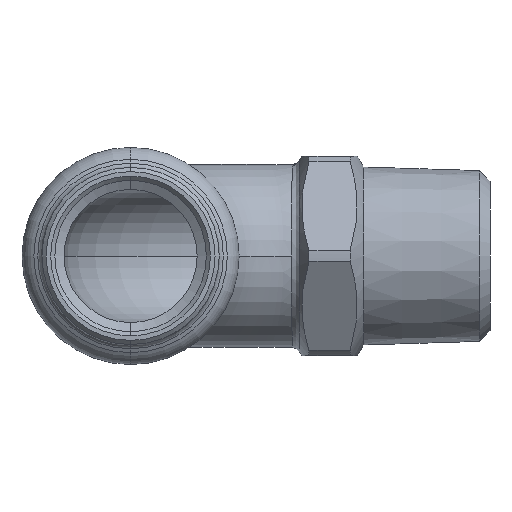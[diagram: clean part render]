
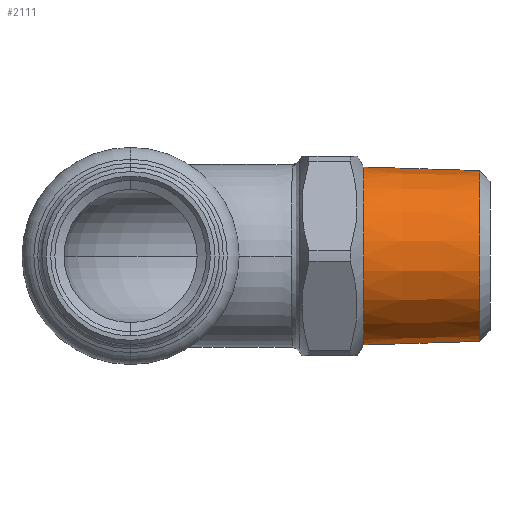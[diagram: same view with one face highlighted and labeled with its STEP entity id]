
A CAD part, front view. The second image highlights one B-rep face of the part: STEP entity #2111.
In plain terms, the highlighted conical face has half-angle 1.78 degrees and reference radius 10.262 mm.
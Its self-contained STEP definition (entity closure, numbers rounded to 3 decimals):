
#70 = CIRCLE ( 'NONE', #2816, 10.695 ) ;
#98 = ORIENTED_EDGE ( 'NONE', *, *, #1257, .F. ) ;
#193 = ORIENTED_EDGE ( 'NONE', *, *, #1247, .T. ) ;
#358 = DIRECTION ( 'NONE',  ( -1., 0., 0. ) ) ;
#702 = AXIS2_PLACEMENT_3D ( 'NONE', #770, #2999, #1090 ) ;
#740 = VECTOR ( 'NONE', #827, 1000. ) ;
#770 = CARTESIAN_POINT ( 'NONE',  ( 41.938, 47., 0. ) ) ;
#798 = DIRECTION ( 'NONE',  ( -1., 0., 0. ) ) ;
#827 = DIRECTION ( 'NONE',  ( -1., 0., 0.031 ) ) ;
#1090 = DIRECTION ( 'NONE',  ( 0., 0., 1. ) ) ;
#1175 = CARTESIAN_POINT ( 'NONE',  ( 41.938, 47., 10.262 ) ) ;
#1247 = EDGE_CURVE ( 'NONE', #1580, #2567, #1791, .T. ) ;
#1257 = EDGE_CURVE ( 'NONE', #4059, #3252, #2444, .T. ) ;
#1282 = CONICAL_SURFACE ( 'NONE', #1543, 10.262, 0.031 ) ;
#1543 = AXIS2_PLACEMENT_3D ( 'NONE', #3654, #798, #3316 ) ;
#1580 = VERTEX_POINT ( 'NONE', #1175 ) ;
#1791 = LINE ( 'NONE', #3959, #740 ) ;
#2031 = EDGE_CURVE ( 'NONE', #4059, #1580, #2340, .T. ) ;
#2046 = CARTESIAN_POINT ( 'NONE',  ( 41.938, 47., -10.262 ) ) ;
#2111 = ADVANCED_FACE ( 'NONE', ( #3934 ), #1282, .T. ) ;
#2256 = CARTESIAN_POINT ( 'NONE',  ( 28., 47., 0. ) ) ;
#2340 = CIRCLE ( 'NONE', #702, 10.262 ) ;
#2444 = LINE ( 'NONE', #2046, #3179 ) ;
#2567 = VERTEX_POINT ( 'NONE', #3331 ) ;
#2579 = DIRECTION ( 'NONE',  ( 0., 0., 1. ) ) ;
#2735 = EDGE_LOOP ( 'NONE', ( #98, #3056, #193, #3756 ) ) ;
#2816 = AXIS2_PLACEMENT_3D ( 'NONE', #2256, #358, #2579 ) ;
#2999 = DIRECTION ( 'NONE',  ( -1., 0., 0. ) ) ;
#3056 = ORIENTED_EDGE ( 'NONE', *, *, #2031, .T. ) ;
#3093 = EDGE_CURVE ( 'NONE', #3252, #2567, #70, .T. ) ;
#3179 = VECTOR ( 'NONE', #3991, 1000. ) ;
#3217 = CARTESIAN_POINT ( 'NONE',  ( 41.938, 47., -10.262 ) ) ;
#3252 = VERTEX_POINT ( 'NONE', #3349 ) ;
#3316 = DIRECTION ( 'NONE',  ( 0., 0., 1. ) ) ;
#3331 = CARTESIAN_POINT ( 'NONE',  ( 28., 47., 10.695 ) ) ;
#3349 = CARTESIAN_POINT ( 'NONE',  ( 28., 47., -10.695 ) ) ;
#3654 = CARTESIAN_POINT ( 'NONE',  ( 41.938, 47., 0. ) ) ;
#3756 = ORIENTED_EDGE ( 'NONE', *, *, #3093, .F. ) ;
#3934 = FACE_OUTER_BOUND ( 'NONE', #2735, .T. ) ;
#3959 = CARTESIAN_POINT ( 'NONE',  ( 41.938, 47., 10.262 ) ) ;
#3991 = DIRECTION ( 'NONE',  ( -1., 0., -0.031 ) ) ;
#4059 = VERTEX_POINT ( 'NONE', #3217 ) ;
